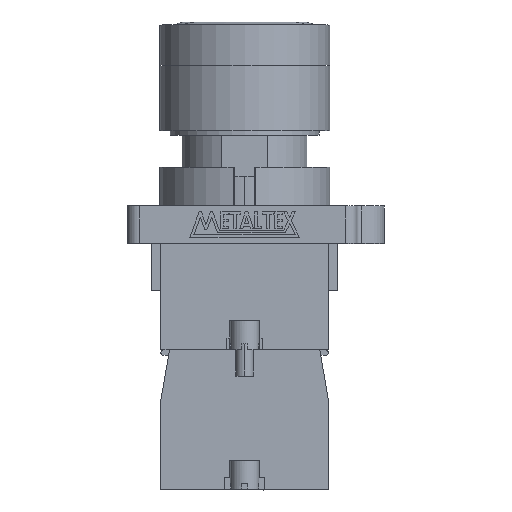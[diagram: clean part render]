
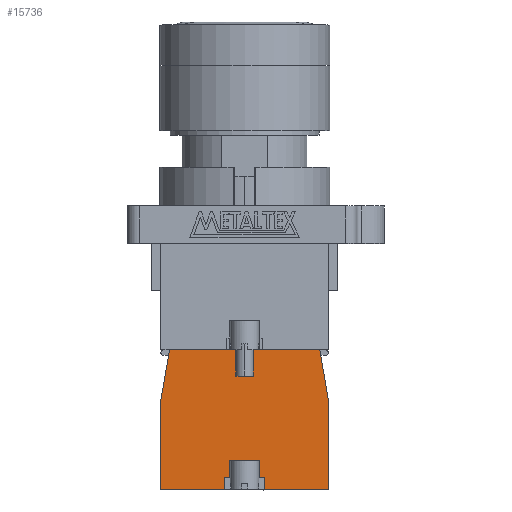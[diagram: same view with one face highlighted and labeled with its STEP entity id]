
A CAD part, top view. The second image highlights one B-rep face of the part: STEP entity #15736.
In plain terms, the highlighted planar face has unit normal (0, 0, 1).
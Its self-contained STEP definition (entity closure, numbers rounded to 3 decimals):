
#583 = LINE ( 'NONE', #584, #2822 ) ;
#584 = CARTESIAN_POINT ( 'NONE',  ( -2.6, 0., 7.45 ) ) ;
#585 = DIRECTION ( 'NONE',  ( 0., 1., 0. ) ) ;
#586 = LINE ( 'NONE', #587, #2821 ) ;
#587 = CARTESIAN_POINT ( 'NONE',  ( 0., 2., 7.45 ) ) ;
#588 = DIRECTION ( 'NONE',  ( 1., 0., 0. ) ) ;
#589 = LINE ( 'NONE', #590, #2820 ) ;
#590 = CARTESIAN_POINT ( 'NONE',  ( -3.5, 0., 7.45 ) ) ;
#591 = DIRECTION ( 'NONE',  ( 0., 1., 0. ) ) ;
#592 = LINE ( 'NONE', #593, #2819 ) ;
#593 = CARTESIAN_POINT ( 'NONE',  ( -1.5, 19.6, 7.45 ) ) ;
#594 = DIRECTION ( 'NONE',  ( 0., 1., 0. ) ) ;
#595 = LINE ( 'NONE', #596, #2818 ) ;
#596 = CARTESIAN_POINT ( 'NONE',  ( -13., 24.2, 7.45 ) ) ;
#597 = DIRECTION ( 'NONE',  ( -0.17, -0.985, 0. ) ) ;
#607 = LINE ( 'NONE', #608, #2816 ) ;
#608 = CARTESIAN_POINT ( 'NONE',  ( 14.5, 0., 7.45 ) ) ;
#609 = DIRECTION ( 'NONE',  ( 0., 1., 0. ) ) ;
#1142 = LINE ( 'NONE', #1143, #1784 ) ;
#1143 = CARTESIAN_POINT ( 'NONE',  ( 1.5, 19.6, 7.45 ) ) ;
#1144 = DIRECTION ( 'NONE',  ( 0., 1., 0. ) ) ;
#1145 = LINE ( 'NONE', #1146, #1517 ) ;
#1146 = CARTESIAN_POINT ( 'NONE',  ( 3.5, 0., 7.45 ) ) ;
#1147 = DIRECTION ( 'NONE',  ( 0., 1., 0. ) ) ;
#1148 = LINE ( 'NONE', #1149, #1491 ) ;
#1149 = CARTESIAN_POINT ( 'NONE',  ( 0., 2., 7.45 ) ) ;
#1150 = DIRECTION ( 'NONE',  ( 1., 0., 0. ) ) ;
#1151 = LINE ( 'NONE', #1152, #1435 ) ;
#1152 = CARTESIAN_POINT ( 'NONE',  ( 2.6, 0., 7.45 ) ) ;
#1153 = DIRECTION ( 'NONE',  ( 0., 1., 0. ) ) ;
#1209 = AXIS2_PLACEMENT_3D ( 'NONE', #4708, #4709, #4712 ) ;
#1243 = FACE_OUTER_BOUND ( 'NONE', #12877, .T. ) ;
#1435 = VECTOR ( 'NONE', #1153, 1000. ) ;
#1491 = VECTOR ( 'NONE', #1150, 1000. ) ;
#1517 = VECTOR ( 'NONE', #1147, 1000. ) ;
#1784 = VECTOR ( 'NONE', #1144, 1000. ) ;
#2816 = VECTOR ( 'NONE', #609, 1000. ) ;
#2818 = VECTOR ( 'NONE', #597, 1000. ) ;
#2819 = VECTOR ( 'NONE', #594, 1000. ) ;
#2820 = VECTOR ( 'NONE', #591, 1000. ) ;
#2821 = VECTOR ( 'NONE', #588, 1000. ) ;
#2822 = VECTOR ( 'NONE', #585, 1000. ) ;
#3291 = EDGE_CURVE ( 'NONE', #13247, #13248, #7195, .T. ) ;
#3298 = EDGE_CURVE ( 'NONE', #13243, #13244, #7216, .T. ) ;
#3302 = EDGE_CURVE ( 'NONE', #13248, #13241, #7228, .T. ) ;
#3336 = EDGE_CURVE ( 'NONE', #13220, #13219, #7330, .T. ) ;
#3342 = EDGE_CURVE ( 'NONE', #13216, #13214, #7348, .T. ) ;
#3349 = EDGE_CURVE ( 'NONE', #13206, #13207, #7369, .T. ) ;
#3414 = EDGE_CURVE ( 'NONE', #13148, #13147, #7911, .T. ) ;
#3417 = EDGE_CURVE ( 'NONE', #13207, #13144, #7920, .T. ) ;
#4705 = PLANE ( 'NONE',  #1209 ) ;
#4708 = CARTESIAN_POINT ( 'NONE',  ( 0., 0., 7.45 ) ) ;
#4709 = DIRECTION ( 'NONE',  ( 0., 0., 1. ) ) ;
#4712 = DIRECTION ( 'NONE',  ( 1., 0., 0. ) ) ;
#5441 = ORIENTED_EDGE ( 'NONE', *, *, #16201, .T. ) ;
#5442 = ORIENTED_EDGE ( 'NONE', *, *, #16198, .T. ) ;
#5443 = ORIENTED_EDGE ( 'NONE', *, *, #3349, .T. ) ;
#5444 = ORIENTED_EDGE ( 'NONE', *, *, #3298, .T. ) ;
#5445 = ORIENTED_EDGE ( 'NONE', *, *, #3417, .T. ) ;
#5446 = ORIENTED_EDGE ( 'NONE', *, *, #16196, .T. ) ;
#5447 = ORIENTED_EDGE ( 'NONE', *, *, #16191, .T. ) ;
#5448 = ORIENTED_EDGE ( 'NONE', *, *, #16194, .T. ) ;
#5449 = ORIENTED_EDGE ( 'NONE', *, *, #3336, .F. ) ;
#5450 = ORIENTED_EDGE ( 'NONE', *, *, #16567, .F. ) ;
#5451 = ORIENTED_EDGE ( 'NONE', *, *, #16562, .F. ) ;
#5452 = ORIENTED_EDGE ( 'NONE', *, *, #16564, .T. ) ;
#5453 = ORIENTED_EDGE ( 'NONE', *, *, #3414, .T. ) ;
#5454 = ORIENTED_EDGE ( 'NONE', *, *, #3291, .T. ) ;
#5455 = ORIENTED_EDGE ( 'NONE', *, *, #16210, .T. ) ;
#5456 = ORIENTED_EDGE ( 'NONE', *, *, #3302, .T. ) ;
#5457 = ORIENTED_EDGE ( 'NONE', *, *, #16560, .F. ) ;
#5459 = ORIENTED_EDGE ( 'NONE', *, *, #3342, .T. ) ;
#7195 = LINE ( 'NONE', #7196, #12719 ) ;
#7196 = CARTESIAN_POINT ( 'NONE',  ( 14.5, 15.5, 7.45 ) ) ;
#7197 = DIRECTION ( 'NONE',  ( -0.17, 0.985, 0. ) ) ;
#7216 = LINE ( 'NONE', #7217, #12669 ) ;
#7217 = CARTESIAN_POINT ( 'NONE',  ( 13., 24.2, 7.45 ) ) ;
#7218 = DIRECTION ( 'NONE',  ( -1., 0., 0. ) ) ;
#7228 = LINE ( 'NONE', #7229, #12673 ) ;
#7229 = CARTESIAN_POINT ( 'NONE',  ( 13., 24.2, 7.45 ) ) ;
#7230 = DIRECTION ( 'NONE',  ( -1., 0., 0. ) ) ;
#7330 = LINE ( 'NONE', #7331, #12657 ) ;
#7331 = CARTESIAN_POINT ( 'NONE',  ( 0., 5., 7.45 ) ) ;
#7332 = DIRECTION ( 'NONE',  ( -1., 0., 0. ) ) ;
#7348 = LINE ( 'NONE', #7349, #12650 ) ;
#7349 = CARTESIAN_POINT ( 'NONE',  ( 0., 19.6, 7.45 ) ) ;
#7350 = DIRECTION ( 'NONE',  ( -1., 0., 0. ) ) ;
#7369 = LINE ( 'NONE', #7370, #12641 ) ;
#7370 = CARTESIAN_POINT ( 'NONE',  ( -14.5, 15.5, 7.45 ) ) ;
#7371 = DIRECTION ( 'NONE',  ( 0., -1., 0. ) ) ;
#7911 = LINE ( 'NONE', #7912, #14264 ) ;
#7912 = CARTESIAN_POINT ( 'NONE',  ( -14.5, 0., 7.45 ) ) ;
#7913 = DIRECTION ( 'NONE',  ( 1., 0., 0. ) ) ;
#7920 = LINE ( 'NONE', #7921, #14322 ) ;
#7921 = CARTESIAN_POINT ( 'NONE',  ( -14.5, 0., 7.45 ) ) ;
#7922 = DIRECTION ( 'NONE',  ( 1., 0., 0. ) ) ;
#12641 = VECTOR ( 'NONE', #7371, 1000. ) ;
#12650 = VECTOR ( 'NONE', #7350, 1000. ) ;
#12657 = VECTOR ( 'NONE', #7332, 1000. ) ;
#12669 = VECTOR ( 'NONE', #7218, 1000. ) ;
#12673 = VECTOR ( 'NONE', #7230, 1000. ) ;
#12719 = VECTOR ( 'NONE', #7197, 1000. ) ;
#12877 = EDGE_LOOP ( 'NONE', ( #5442, #5444, #5441, #5443, #5445, #5446, #5448, #5447, #5449, #5450, #5452, #5451, #5453, #5455, #5454, #5456, #5457, #5459 ) ) ;
#13111 = VERTEX_POINT ( 'NONE', #16563 ) ;
#13112 = VERTEX_POINT ( 'NONE', #16565 ) ;
#13113 = VERTEX_POINT ( 'NONE', #16566 ) ;
#13114 = VERTEX_POINT ( 'NONE', #16568 ) ;
#13144 = VERTEX_POINT ( 'NONE', #16620 ) ;
#13147 = VERTEX_POINT ( 'NONE', #16625 ) ;
#13148 = VERTEX_POINT ( 'NONE', #16627 ) ;
#13206 = VERTEX_POINT ( 'NONE', #16719 ) ;
#13207 = VERTEX_POINT ( 'NONE', #16720 ) ;
#13214 = VERTEX_POINT ( 'NONE', #16727 ) ;
#13216 = VERTEX_POINT ( 'NONE', #16729 ) ;
#13219 = VERTEX_POINT ( 'NONE', #16732 ) ;
#13220 = VERTEX_POINT ( 'NONE', #16733 ) ;
#13241 = VERTEX_POINT ( 'NONE', #16754 ) ;
#13243 = VERTEX_POINT ( 'NONE', #16756 ) ;
#13244 = VERTEX_POINT ( 'NONE', #16757 ) ;
#13247 = VERTEX_POINT ( 'NONE', #16760 ) ;
#13248 = VERTEX_POINT ( 'NONE', #16761 ) ;
#14264 = VECTOR ( 'NONE', #7913, 1000. ) ;
#14322 = VECTOR ( 'NONE', #7922, 1000. ) ;
#15736 = ADVANCED_FACE ( 'NONE', ( #1243 ), #4705, .T. ) ;
#16191 = EDGE_CURVE ( 'NONE', #13113, #13219, #583, .T. ) ;
#16194 = EDGE_CURVE ( 'NONE', #13114, #13113, #586, .T. ) ;
#16196 = EDGE_CURVE ( 'NONE', #13144, #13114, #589, .T. ) ;
#16198 = EDGE_CURVE ( 'NONE', #13214, #13243, #592, .T. ) ;
#16201 = EDGE_CURVE ( 'NONE', #13244, #13206, #595, .T. ) ;
#16210 = EDGE_CURVE ( 'NONE', #13147, #13247, #607, .T. ) ;
#16560 = EDGE_CURVE ( 'NONE', #13216, #13241, #1142, .T. ) ;
#16562 = EDGE_CURVE ( 'NONE', #13148, #13111, #1145, .T. ) ;
#16563 = CARTESIAN_POINT ( 'NONE',  ( 3.5, 2., 7.45 ) ) ;
#16564 = EDGE_CURVE ( 'NONE', #13112, #13111, #1148, .T. ) ;
#16565 = CARTESIAN_POINT ( 'NONE',  ( 2.6, 2., 7.45 ) ) ;
#16567 = EDGE_CURVE ( 'NONE', #13112, #13220, #1151, .T. ) ;
#16566 = CARTESIAN_POINT ( 'NONE',  ( -2.6, 2., 7.45 ) ) ;
#16568 = CARTESIAN_POINT ( 'NONE',  ( -3.5, 2., 7.45 ) ) ;
#16620 = CARTESIAN_POINT ( 'NONE',  ( -3.5, 0., 7.45 ) ) ;
#16625 = CARTESIAN_POINT ( 'NONE',  ( 14.5, 0., 7.45 ) ) ;
#16627 = CARTESIAN_POINT ( 'NONE',  ( 3.5, 0., 7.45 ) ) ;
#16719 = CARTESIAN_POINT ( 'NONE',  ( -14.5, 15.5, 7.45 ) ) ;
#16720 = CARTESIAN_POINT ( 'NONE',  ( -14.5, 0., 7.45 ) ) ;
#16727 = CARTESIAN_POINT ( 'NONE',  ( -1.5, 19.6, 7.45 ) ) ;
#16729 = CARTESIAN_POINT ( 'NONE',  ( 1.5, 19.6, 7.45 ) ) ;
#16732 = CARTESIAN_POINT ( 'NONE',  ( -2.6, 5., 7.45 ) ) ;
#16733 = CARTESIAN_POINT ( 'NONE',  ( 2.6, 5., 7.45 ) ) ;
#16754 = CARTESIAN_POINT ( 'NONE',  ( 1.5, 24.2, 7.45 ) ) ;
#16756 = CARTESIAN_POINT ( 'NONE',  ( -1.5, 24.2, 7.45 ) ) ;
#16757 = CARTESIAN_POINT ( 'NONE',  ( -13., 24.2, 7.45 ) ) ;
#16760 = CARTESIAN_POINT ( 'NONE',  ( 14.5, 15.5, 7.45 ) ) ;
#16761 = CARTESIAN_POINT ( 'NONE',  ( 13., 24.2, 7.45 ) ) ;
